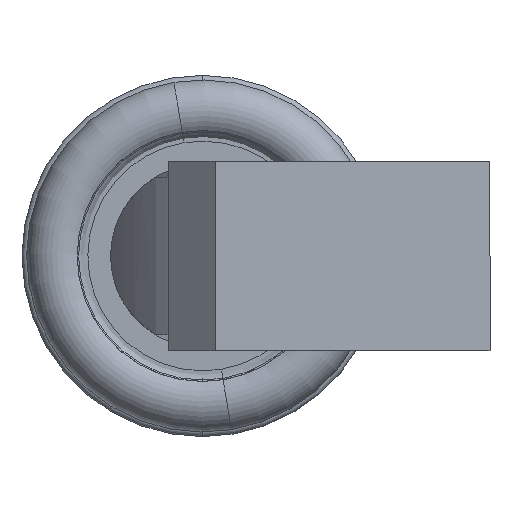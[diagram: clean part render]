
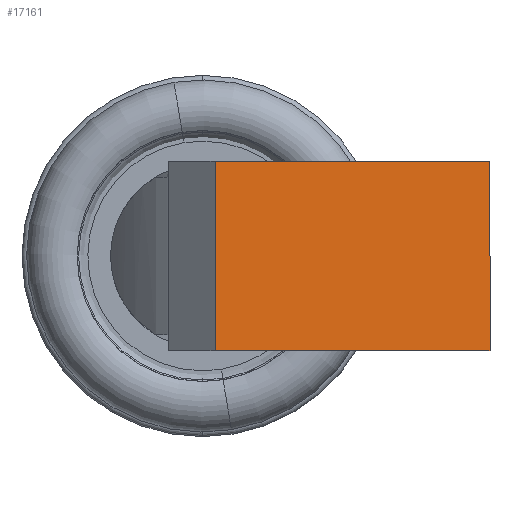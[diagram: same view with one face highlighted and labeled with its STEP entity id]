
A CAD part, left-side view. The second image highlights one B-rep face of the part: STEP entity #17161.
In plain terms, the highlighted planar face has unit normal (-0.998, -0.07, 0).
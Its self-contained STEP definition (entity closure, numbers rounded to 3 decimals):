
#1049 = CARTESIAN_POINT ( 'NONE',  ( -123.922, -8.666, -12.5 ) ) ;
#2094 = EDGE_CURVE ( 'NONE', #12890, #4834, #2167, .T. ) ;
#2167 = LINE ( 'NONE', #7963, #12151 ) ;
#2944 = DIRECTION ( 'NONE',  ( 0.998, 0.07, 0. ) ) ;
#3215 = CARTESIAN_POINT ( 'NONE',  ( -123.872, -9.384, -12.5 ) ) ;
#4057 = EDGE_CURVE ( 'NONE', #22810, #12890, #24480, .T. ) ;
#4186 = DIRECTION ( 'NONE',  ( 0., 0., 1. ) ) ;
#4240 = ORIENTED_EDGE ( 'NONE', *, *, #15754, .T. ) ;
#4646 = CARTESIAN_POINT ( 'NONE',  ( -123.872, -9.384, -3.1 ) ) ;
#4834 = VERTEX_POINT ( 'NONE', #24909 ) ;
#5326 = CARTESIAN_POINT ( 'NONE',  ( -123.922, -8.666, -3.1 ) ) ;
#6298 = VECTOR ( 'NONE', #7079, 1000. ) ;
#7079 = DIRECTION ( 'NONE',  ( -0.07, 0.998, 0. ) ) ;
#7963 = CARTESIAN_POINT ( 'NONE',  ( -124.5, -0.406, -12.5 ) ) ;
#8069 = EDGE_LOOP ( 'NONE', ( #16524, #23492, #4240, #9768 ) ) ;
#8996 = DIRECTION ( 'NONE',  ( -0.07, 0.998, 0. ) ) ;
#9768 = ORIENTED_EDGE ( 'NONE', *, *, #2094, .F. ) ;
#9891 = FACE_OUTER_BOUND ( 'NONE', #8069, .T. ) ;
#10765 = LINE ( 'NONE', #18436, #20013 ) ;
#11694 = CARTESIAN_POINT ( 'NONE',  ( -124.5, -0.406, -3.1 ) ) ;
#12151 = VECTOR ( 'NONE', #4186, 1000. ) ;
#12422 = PLANE ( 'NONE',  #12424 ) ;
#12424 = AXIS2_PLACEMENT_3D ( 'NONE', #1049, #2944, #20216 ) ;
#12890 = VERTEX_POINT ( 'NONE', #11694 ) ;
#14542 = VERTEX_POINT ( 'NONE', #20767 ) ;
#14588 = DIRECTION ( 'NONE',  ( 0., 0., 1. ) ) ;
#15754 = EDGE_CURVE ( 'NONE', #14542, #4834, #10765, .T. ) ;
#16337 = LINE ( 'NONE', #3215, #20662 ) ;
#16524 = ORIENTED_EDGE ( 'NONE', *, *, #4057, .F. ) ;
#17161 = ADVANCED_FACE ( 'NONE', ( #9891 ), #12422, .F. ) ;
#18436 = CARTESIAN_POINT ( 'NONE',  ( -123.922, -8.666, 3.1 ) ) ;
#20013 = VECTOR ( 'NONE', #8996, 1000. ) ;
#20216 = DIRECTION ( 'NONE',  ( -0.07, 0.998, 0. ) ) ;
#20662 = VECTOR ( 'NONE', #14588, 1000. ) ;
#20767 = CARTESIAN_POINT ( 'NONE',  ( -123.872, -9.384, 3.1 ) ) ;
#22810 = VERTEX_POINT ( 'NONE', #4646 ) ;
#23492 = ORIENTED_EDGE ( 'NONE', *, *, #24527, .T. ) ;
#24480 = LINE ( 'NONE', #5326, #6298 ) ;
#24527 = EDGE_CURVE ( 'NONE', #22810, #14542, #16337, .T. ) ;
#24909 = CARTESIAN_POINT ( 'NONE',  ( -124.5, -0.406, 3.1 ) ) ;
